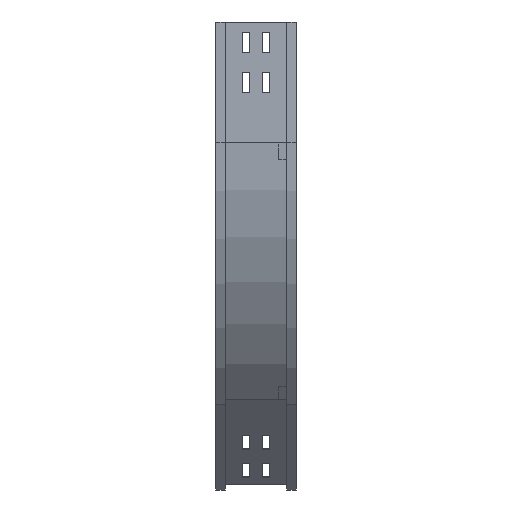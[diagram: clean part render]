
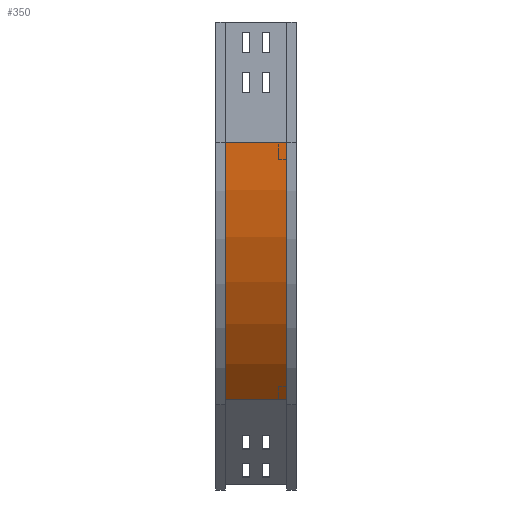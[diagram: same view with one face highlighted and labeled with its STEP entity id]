
A CAD part, left-side view. The second image highlights one B-rep face of the part: STEP entity #350.
In plain terms, the highlighted cylindrical face has radius 450 mm (diameter 900 mm), a partial arc.
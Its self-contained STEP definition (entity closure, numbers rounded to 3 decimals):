
#37 = AXIS2_PLACEMENT_3D ( 'NONE', #3404, #2094, #257 ) ;
#62 = ORIENTED_EDGE ( 'NONE', *, *, #3139, .F. ) ;
#124 = EDGE_CURVE ( 'NONE', #2468, #1259, #2406, .T. ) ;
#257 = DIRECTION ( 'NONE',  ( -1., 0., 0. ) ) ;
#350 = ADVANCED_FACE ( 'NONE', ( #1180 ), #2616, .T. ) ;
#571 = AXIS2_PLACEMENT_3D ( 'NONE', #4023, #4270, #4292 ) ;
#592 = EDGE_LOOP ( 'NONE', ( #1095, #62, #4109, #3360 ) ) ;
#635 = CARTESIAN_POINT ( 'NONE',  ( 9., 12., -150. ) ) ;
#681 = AXIS2_PLACEMENT_3D ( 'NONE', #3107, #2051, #4482 ) ;
#756 = CIRCLE ( 'NONE', #681, 450. ) ;
#946 = CARTESIAN_POINT ( 'NONE',  ( 140.802, 12., -468.198 ) ) ;
#1095 = ORIENTED_EDGE ( 'NONE', *, *, #3124, .F. ) ;
#1180 = FACE_OUTER_BOUND ( 'NONE', #592, .T. ) ;
#1259 = VERTEX_POINT ( 'NONE', #3461 ) ;
#1791 = VERTEX_POINT ( 'NONE', #3161 ) ;
#2017 = DIRECTION ( 'NONE',  ( 0., -1., 0. ) ) ;
#2051 = DIRECTION ( 'NONE',  ( 0., -1., 0. ) ) ;
#2094 = DIRECTION ( 'NONE',  ( 0., -1., 0. ) ) ;
#2406 = LINE ( 'NONE', #946, #2913 ) ;
#2468 = VERTEX_POINT ( 'NONE', #3658 ) ;
#2595 = VECTOR ( 'NONE', #3818, 1000. ) ;
#2616 = CYLINDRICAL_SURFACE ( 'NONE', #571, 450. ) ;
#2662 = CARTESIAN_POINT ( 'NONE',  ( 9., 12., -150. ) ) ;
#2913 = VECTOR ( 'NONE', #2017, 1000. ) ;
#3107 = CARTESIAN_POINT ( 'NONE',  ( 459., 12., -150. ) ) ;
#3123 = EDGE_CURVE ( 'NONE', #1791, #2468, #3605, .T. ) ;
#3124 = EDGE_CURVE ( 'NONE', #3991, #1259, #756, .T. ) ;
#3139 = EDGE_CURVE ( 'NONE', #1791, #3991, #4458, .T. ) ;
#3161 = CARTESIAN_POINT ( 'NONE',  ( 9., 88., -150. ) ) ;
#3360 = ORIENTED_EDGE ( 'NONE', *, *, #124, .T. ) ;
#3404 = CARTESIAN_POINT ( 'NONE',  ( 459., 88., -150. ) ) ;
#3461 = CARTESIAN_POINT ( 'NONE',  ( 140.802, 12., -468.198 ) ) ;
#3605 = CIRCLE ( 'NONE', #37, 450. ) ;
#3658 = CARTESIAN_POINT ( 'NONE',  ( 140.802, 88., -468.198 ) ) ;
#3818 = DIRECTION ( 'NONE',  ( 0., -1., 0. ) ) ;
#3991 = VERTEX_POINT ( 'NONE', #2662 ) ;
#4023 = CARTESIAN_POINT ( 'NONE',  ( 459., 0., -150. ) ) ;
#4109 = ORIENTED_EDGE ( 'NONE', *, *, #3123, .T. ) ;
#4270 = DIRECTION ( 'NONE',  ( 0., -1., 0. ) ) ;
#4292 = DIRECTION ( 'NONE',  ( 0., 0., -1. ) ) ;
#4458 = LINE ( 'NONE', #635, #2595 ) ;
#4482 = DIRECTION ( 'NONE',  ( -1., 0., 0. ) ) ;
